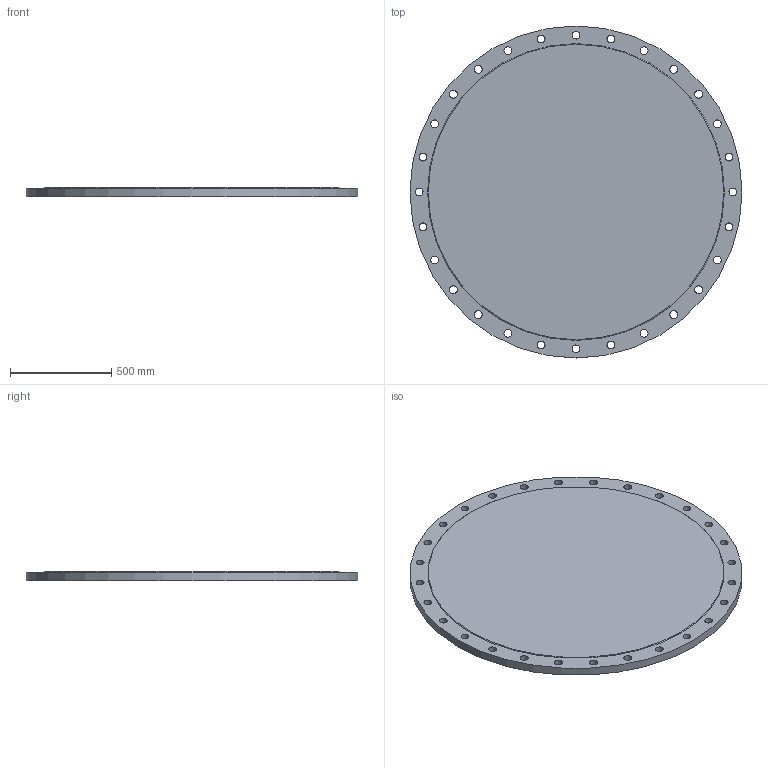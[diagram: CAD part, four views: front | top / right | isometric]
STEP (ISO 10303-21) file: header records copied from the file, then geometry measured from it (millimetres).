
FILE_DESCRIPTION(/* description */ (''),/* implementation_level */ '2;1');
FILE_NAME(/* name */ 'C:\Users\D\Documents\Inventor\HP\JIS\フランジ\水道用フランジF12\BL\ffws_bl_1350.stp',/* time_stamp */ '2024-08-28T10:08:54+09:00',/* author */ ('D'),/* organization */ (''),/* preprocessor_version */ 'ST-DEVELOPER v18',/* originating_system */ 'Autodesk Inventor 2020',/* authorisation */ '');
FILE_SCHEMA (('AUTOMOTIVE_DESIGN { 1 0 10303 214 3 1 1 }'));
Length unit declared in the file: millimetre
Products named in the file (1): ffws_pl_80
Bounding box: 1642 x 1642 x 45 mm (x, y, z)
Volume: 92589706.7 mm3; surface area: 4534689.4 mm2
Topology: 1 solids, 1 shells, 33 faces, 122 edges, 92 vertices
Faces by surface type: cylinder 29, plane 3, cone 1
Full cylindrical faces by diameter (mm): 39 x28, 1642 x1
Entity records: 1557 total; most frequent: DIRECTION 282, CARTESIAN_POINT 248, ORIENTED_EDGE 244, AXIS2_PLACEMENT_3D 126, EDGE_CURVE 122, CIRCLE 92, VERTEX_POINT 92, EDGE_LOOP 90
